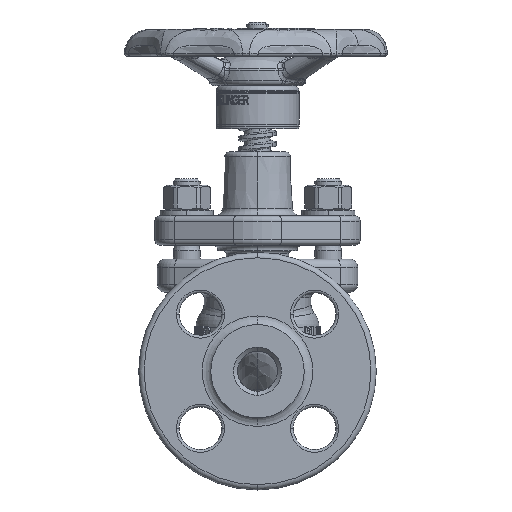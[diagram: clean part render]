
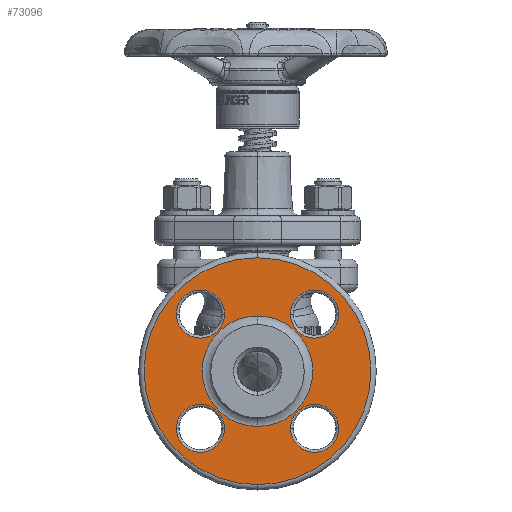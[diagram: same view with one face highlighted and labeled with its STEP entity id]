
A CAD part, left-side view. The second image highlights one B-rep face of the part: STEP entity #73096.
In plain terms, the highlighted planar face has unit normal (-1, 0, 0).
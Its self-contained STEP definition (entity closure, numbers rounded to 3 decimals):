
#19064=CARTESIAN_POINT('',(-52.4,0.,0.));
#19065=DIRECTION('',(1.,0.,0.));
#19066=DIRECTION('',(0.,0.,-1.));
#19067=AXIS2_PLACEMENT_3D('',#19064,#19065,#19066);
#19069=CARTESIAN_POINT('',(-52.4,0.,0.));
#19070=DIRECTION('',(1.,0.,0.));
#19071=DIRECTION('',(0.,0.,1.));
#19072=AXIS2_PLACEMENT_3D('',#19069,#19070,#19071);
#19074=CARTESIAN_POINT('',(-52.4,0.,0.));
#19075=DIRECTION('',(1.,0.,0.));
#19076=DIRECTION('',(0.,0.,-1.));
#19077=AXIS2_PLACEMENT_3D('',#19074,#19075,#19076);
#19079=CARTESIAN_POINT('',(-52.4,0.,0.));
#19080=DIRECTION('',(-1.,0.,0.));
#19081=DIRECTION('',(0.,0.,-1.));
#19082=AXIS2_PLACEMENT_3D('',#19079,#19080,#19081);
#19084=CARTESIAN_POINT('',(-52.4,21.39,21.39));
#19085=DIRECTION('',(1.,0.,0.));
#19086=DIRECTION('',(0.,1.,0.));
#19087=AXIS2_PLACEMENT_3D('',#19084,#19085,#19086);
#19089=CARTESIAN_POINT('',(-52.4,21.39,21.39));
#19090=DIRECTION('',(1.,0.,0.));
#19091=DIRECTION('',(0.,-1.,0.));
#19092=AXIS2_PLACEMENT_3D('',#19089,#19090,#19091);
#19094=CARTESIAN_POINT('',(-52.4,21.39,-21.39));
#19095=DIRECTION('',(1.,0.,0.));
#19096=DIRECTION('',(0.,1.,0.));
#19097=AXIS2_PLACEMENT_3D('',#19094,#19095,#19096);
#19099=CARTESIAN_POINT('',(-52.4,21.39,-21.39));
#19100=DIRECTION('',(1.,0.,0.));
#19101=DIRECTION('',(0.,-1.,0.));
#19102=AXIS2_PLACEMENT_3D('',#19099,#19100,#19101);
#19104=CARTESIAN_POINT('',(-52.4,-21.39,-21.39));
#19105=DIRECTION('',(1.,0.,0.));
#19106=DIRECTION('',(0.,1.,0.));
#19107=AXIS2_PLACEMENT_3D('',#19104,#19105,#19106);
#19109=CARTESIAN_POINT('',(-52.4,-21.39,-21.39));
#19110=DIRECTION('',(1.,0.,0.));
#19111=DIRECTION('',(0.,-1.,0.));
#19112=AXIS2_PLACEMENT_3D('',#19109,#19110,#19111);
#19114=CARTESIAN_POINT('',(-52.4,-21.39,21.39));
#19115=DIRECTION('',(1.,0.,0.));
#19116=DIRECTION('',(0.,1.,0.));
#19117=AXIS2_PLACEMENT_3D('',#19114,#19115,#19116);
#19119=CARTESIAN_POINT('',(-52.4,-21.39,21.39));
#19120=DIRECTION('',(1.,0.,0.));
#19121=DIRECTION('',(0.,-1.,0.));
#19122=AXIS2_PLACEMENT_3D('',#19119,#19120,#19121);
#31793=CARTESIAN_POINT('',(-52.4,30.39,21.39));
#31794=CARTESIAN_POINT('',(-52.4,12.39,21.39));
#31795=VERTEX_POINT('',#31793);
#31796=VERTEX_POINT('',#31794);
#31797=CARTESIAN_POINT('',(-52.4,30.39,-21.39));
#31798=CARTESIAN_POINT('',(-52.4,12.39,-21.39));
#31799=VERTEX_POINT('',#31797);
#31800=VERTEX_POINT('',#31798);
#31801=CARTESIAN_POINT('',(-52.4,-12.39,-21.39));
#31802=CARTESIAN_POINT('',(-52.4,-30.39,-21.39));
#31803=VERTEX_POINT('',#31801);
#31804=VERTEX_POINT('',#31802);
#31805=CARTESIAN_POINT('',(-52.4,-12.39,21.39));
#31806=CARTESIAN_POINT('',(-52.4,-30.39,21.39));
#31807=VERTEX_POINT('',#31805);
#31808=VERTEX_POINT('',#31806);
#31833=CARTESIAN_POINT('',(-52.4,0.,-42.5));
#31834=CARTESIAN_POINT('',(-52.4,0.,42.5));
#31835=VERTEX_POINT('',#31833);
#31836=VERTEX_POINT('',#31834);
#32740=CARTESIAN_POINT('',(-52.4,0.,-20.7));
#32741=CARTESIAN_POINT('',(-52.4,0.,20.7));
#32742=VERTEX_POINT('',#32740);
#32743=VERTEX_POINT('',#32741);
#73057=CARTESIAN_POINT('',(-52.4,0.,0.));
#73058=DIRECTION('',(-1.,0.,0.));
#73059=DIRECTION('',(0.,0.,1.));
#73060=AXIS2_PLACEMENT_3D('',#73057,#73058,#73059);
#73061=PLANE('',#73060);
#73063=ORIENTED_EDGE('',*,*,#73062,.T.);
#73065=ORIENTED_EDGE('',*,*,#73064,.T.);
#73066=EDGE_LOOP('',(#73063,#73065));
#73067=FACE_OUTER_BOUND('',#73066,.F.);
#73068=ORIENTED_EDGE('',*,*,#73051,.F.);
#73069=ORIENTED_EDGE('',*,*,#73037,.T.);
#73070=EDGE_LOOP('',(#73068,#73069));
#73071=FACE_BOUND('',#73070,.F.);
#73073=ORIENTED_EDGE('',*,*,#73072,.F.);
#73075=ORIENTED_EDGE('',*,*,#73074,.F.);
#73076=EDGE_LOOP('',(#73073,#73075));
#73077=FACE_BOUND('',#73076,.F.);
#73079=ORIENTED_EDGE('',*,*,#73078,.F.);
#73081=ORIENTED_EDGE('',*,*,#73080,.F.);
#73082=EDGE_LOOP('',(#73079,#73081));
#73083=FACE_BOUND('',#73082,.F.);
#73085=ORIENTED_EDGE('',*,*,#73084,.F.);
#73087=ORIENTED_EDGE('',*,*,#73086,.F.);
#73088=EDGE_LOOP('',(#73085,#73087));
#73089=FACE_BOUND('',#73088,.F.);
#73091=ORIENTED_EDGE('',*,*,#73090,.F.);
#73093=ORIENTED_EDGE('',*,*,#73092,.F.);
#73094=EDGE_LOOP('',(#73091,#73093));
#73095=FACE_BOUND('',#73094,.F.);
#73096=ADVANCED_FACE('',(#73067,#73071,#73077,#73083,#73089,#73095),#73061,.T.);
#19068=CIRCLE('',#19067,42.5);
#19073=CIRCLE('',#19072,42.5);
#19078=CIRCLE('',#19077,20.7);
#19083=CIRCLE('',#19082,20.7);
#19088=CIRCLE('',#19087,9.);
#19093=CIRCLE('',#19092,9.);
#19098=CIRCLE('',#19097,9.);
#19103=CIRCLE('',#19102,9.);
#19108=CIRCLE('',#19107,9.);
#19113=CIRCLE('',#19112,9.);
#19118=CIRCLE('',#19117,9.);
#19123=CIRCLE('',#19122,9.);
#73037=EDGE_CURVE('',#32742,#32743,#19083,.T.);
#73051=EDGE_CURVE('',#32742,#32743,#19078,.T.);
#73062=EDGE_CURVE('',#31835,#31836,#19068,.T.);
#73064=EDGE_CURVE('',#31836,#31835,#19073,.T.);
#73072=EDGE_CURVE('',#31795,#31796,#19088,.T.);
#73074=EDGE_CURVE('',#31796,#31795,#19093,.T.);
#73078=EDGE_CURVE('',#31799,#31800,#19098,.T.);
#73080=EDGE_CURVE('',#31800,#31799,#19103,.T.);
#73084=EDGE_CURVE('',#31803,#31804,#19108,.T.);
#73086=EDGE_CURVE('',#31804,#31803,#19113,.T.);
#73090=EDGE_CURVE('',#31807,#31808,#19118,.T.);
#73092=EDGE_CURVE('',#31808,#31807,#19123,.T.);
